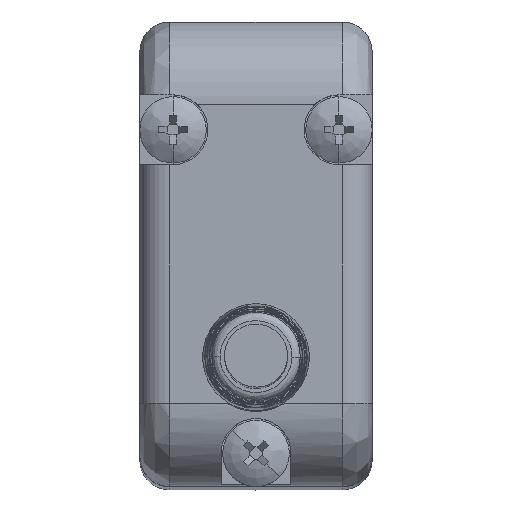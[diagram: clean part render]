
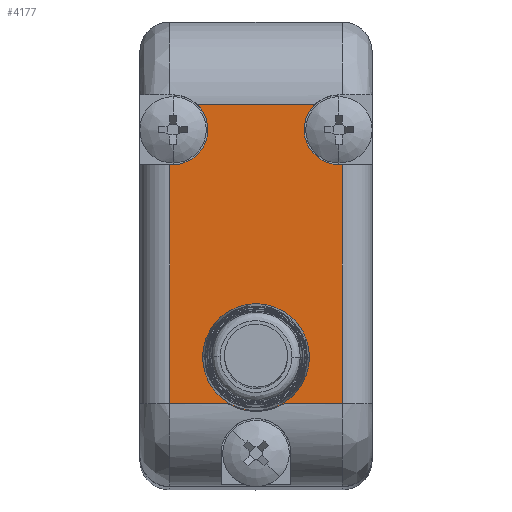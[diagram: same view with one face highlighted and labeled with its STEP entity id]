
A CAD part, top view. The second image highlights one B-rep face of the part: STEP entity #4177.
In plain terms, the highlighted planar face has unit normal (0, 0, 1).
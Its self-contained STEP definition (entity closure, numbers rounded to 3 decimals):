
#94 = CARTESIAN_POINT ( 'NONE',  ( 46.349, 2.34, 58.281 ) ) ;
#101 = VERTEX_POINT ( 'NONE', #11562 ) ;
#151 = EDGE_CURVE ( 'NONE', #8963, #1542, #6530, .T. ) ;
#188 = DIRECTION ( 'NONE',  ( -1., 0., 0. ) ) ;
#258 = EDGE_CURVE ( 'NONE', #1600, #6847, #7221, .T. ) ;
#391 = ORIENTED_EDGE ( 'NONE', *, *, #5170, .T. ) ;
#473 = ORIENTED_EDGE ( 'NONE', *, *, #5905, .F. ) ;
#520 = CARTESIAN_POINT ( 'NONE',  ( 43.13, -0.425, 58.281 ) ) ;
#526 = EDGE_CURVE ( 'NONE', #4246, #6323, #8605, .T. ) ;
#651 = DIRECTION ( 'NONE',  ( 1., 0., 0. ) ) ;
#763 = CARTESIAN_POINT ( 'NONE',  ( 48.33, 8.575, 58.281 ) ) ;
#826 = VECTOR ( 'NONE', #3333, 1000. ) ;
#842 = CARTESIAN_POINT ( 'NONE',  ( 37.93, 8.575, 58.281 ) ) ;
#986 = AXIS2_PLACEMENT_3D ( 'NONE', #6884, #7718, #188 ) ;
#1000 = CARTESIAN_POINT ( 'NONE',  ( 41.431, -0.425, 58.281 ) ) ;
#1234 = ORIENTED_EDGE ( 'NONE', *, *, #2815, .T. ) ;
#1403 = CARTESIAN_POINT ( 'NONE',  ( 38.13, 13.975, 58.281 ) ) ;
#1452 = VECTOR ( 'NONE', #10121, 1000. ) ;
#1490 = CARTESIAN_POINT ( 'NONE',  ( 48.33, -0.425, 58.281 ) ) ;
#1542 = VERTEX_POINT ( 'NONE', #6079 ) ;
#1600 = VERTEX_POINT ( 'NONE', #6854 ) ;
#1624 = CARTESIAN_POINT ( 'NONE',  ( 48.13, 16.075, 58.281 ) ) ;
#1712 = DIRECTION ( 'NONE',  ( 0., -1., 0. ) ) ;
#1717 = VECTOR ( 'NONE', #1712, 1000. ) ;
#1849 = VERTEX_POINT ( 'NONE', #4311 ) ;
#1967 = DIRECTION ( 'NONE',  ( 1., 0., 0. ) ) ;
#2213 = EDGE_LOOP ( 'NONE', ( #8599, #391 ) ) ;
#2387 = PLANE ( 'NONE',  #7437 ) ;
#2391 = CARTESIAN_POINT ( 'NONE',  ( 40.23, 16.075, 58.281 ) ) ;
#2617 = EDGE_CURVE ( 'NONE', #1849, #9174, #4387, .T. ) ;
#2627 = LINE ( 'NONE', #842, #1452 ) ;
#2639 = EDGE_CURVE ( 'NONE', #6847, #3714, #8054, .T. ) ;
#2815 = EDGE_CURVE ( 'NONE', #1600, #101, #8235, .T. ) ;
#2900 = CARTESIAN_POINT ( 'NONE',  ( 48.33, -0.425, 58.281 ) ) ;
#3024 = ORIENTED_EDGE ( 'NONE', *, *, #6461, .F. ) ;
#3052 = VECTOR ( 'NONE', #5660, 1000. ) ;
#3322 = CIRCLE ( 'NONE', #6772, 2.1 ) ;
#3333 = DIRECTION ( 'NONE',  ( 1., 0., 0. ) ) ;
#3479 = VERTEX_POINT ( 'NONE', #7710 ) ;
#3509 = FACE_OUTER_BOUND ( 'NONE', #6346, .T. ) ;
#3566 = CIRCLE ( 'NONE', #6639, 2.1 ) ;
#3714 = VERTEX_POINT ( 'NONE', #11124 ) ;
#3739 = ORIENTED_EDGE ( 'NONE', *, *, #258, .F. ) ;
#3858 = CIRCLE ( 'NONE', #4248, 3.275 ) ;
#4101 = DIRECTION ( 'NONE',  ( -1., 0., 0. ) ) ;
#4177 = ADVANCED_FACE ( 'NONE', ( #3509, #7160 ), #2387, .F. ) ;
#4246 = VERTEX_POINT ( 'NONE', #1000 ) ;
#4248 = AXIS2_PLACEMENT_3D ( 'NONE', #4751, #11296, #6618 ) ;
#4311 = CARTESIAN_POINT ( 'NONE',  ( 39.91, 2.411, 58.281 ) ) ;
#4338 = ORIENTED_EDGE ( 'NONE', *, *, #11230, .F. ) ;
#4387 = CIRCLE ( 'NONE', #11679, 3.219 ) ;
#4391 = CARTESIAN_POINT ( 'NONE',  ( 43.13, 2.375, 58.281 ) ) ;
#4418 = DIRECTION ( 'NONE',  ( 1., 0., 0. ) ) ;
#4447 = CARTESIAN_POINT ( 'NONE',  ( 46.66, 17.575, 58.281 ) ) ;
#4509 = DIRECTION ( 'NONE',  ( -1., 0., 0. ) ) ;
#4751 = CARTESIAN_POINT ( 'NONE',  ( 43.13, 2.375, 58.281 ) ) ;
#5071 = CARTESIAN_POINT ( 'NONE',  ( 43.13, 17.575, 58.281 ) ) ;
#5138 = DIRECTION ( 'NONE',  ( -1., 0., 0. ) ) ;
#5170 = EDGE_CURVE ( 'NONE', #9174, #1849, #6540, .T. ) ;
#5199 = DIRECTION ( 'NONE',  ( 0., 0., -1. ) ) ;
#5240 = LINE ( 'NONE', #6030, #5294 ) ;
#5294 = VECTOR ( 'NONE', #7880, 1000. ) ;
#5660 = DIRECTION ( 'NONE',  ( -1., 0., 0. ) ) ;
#5675 = ORIENTED_EDGE ( 'NONE', *, *, #526, .F. ) ;
#5905 = EDGE_CURVE ( 'NONE', #3714, #4246, #3858, .T. ) ;
#6030 = CARTESIAN_POINT ( 'NONE',  ( 37.13, 13.975, 58.281 ) ) ;
#6079 = CARTESIAN_POINT ( 'NONE',  ( 39.599, 17.575, 58.281 ) ) ;
#6136 = VERTEX_POINT ( 'NONE', #1403 ) ;
#6323 = VERTEX_POINT ( 'NONE', #8821 ) ;
#6346 = EDGE_LOOP ( 'NONE', ( #5675, #473, #7214, #3739, #1234, #10068, #8665, #7618, #4338, #6761, #3024 ) ) ;
#6441 = CARTESIAN_POINT ( 'NONE',  ( 49.13, 13.975, 58.281 ) ) ;
#6461 = EDGE_CURVE ( 'NONE', #6323, #3479, #2627, .T. ) ;
#6530 = CIRCLE ( 'NONE', #10548, 2.1 ) ;
#6540 = CIRCLE ( 'NONE', #986, 3.219 ) ;
#6618 = DIRECTION ( 'NONE',  ( -1., 0., 0. ) ) ;
#6639 = AXIS2_PLACEMENT_3D ( 'NONE', #1624, #7063, #4418 ) ;
#6761 = ORIENTED_EDGE ( 'NONE', *, *, #11785, .T. ) ;
#6772 = AXIS2_PLACEMENT_3D ( 'NONE', #7357, #10115, #1967 ) ;
#6847 = VERTEX_POINT ( 'NONE', #2900 ) ;
#6854 = CARTESIAN_POINT ( 'NONE',  ( 48.33, 13.975, 58.281 ) ) ;
#6884 = CARTESIAN_POINT ( 'NONE',  ( 43.13, 2.375, 58.281 ) ) ;
#7063 = DIRECTION ( 'NONE',  ( 0., 0., 1. ) ) ;
#7160 = FACE_BOUND ( 'NONE', #2213, .T. ) ;
#7214 = ORIENTED_EDGE ( 'NONE', *, *, #2639, .F. ) ;
#7221 = LINE ( 'NONE', #763, #1717 ) ;
#7285 = VECTOR ( 'NONE', #4101, 1000. ) ;
#7357 = CARTESIAN_POINT ( 'NONE',  ( 38.13, 16.075, 58.281 ) ) ;
#7437 = AXIS2_PLACEMENT_3D ( 'NONE', #1490, #5199, #5138 ) ;
#7547 = EDGE_CURVE ( 'NONE', #8001, #101, #3566, .T. ) ;
#7618 = ORIENTED_EDGE ( 'NONE', *, *, #151, .F. ) ;
#7706 = LINE ( 'NONE', #5071, #826 ) ;
#7710 = CARTESIAN_POINT ( 'NONE',  ( 37.93, 13.975, 58.281 ) ) ;
#7718 = DIRECTION ( 'NONE',  ( 0., 0., -1. ) ) ;
#7775 = DIRECTION ( 'NONE',  ( 0., 0., 1. ) ) ;
#7880 = DIRECTION ( 'NONE',  ( -1., 0., 0. ) ) ;
#8001 = VERTEX_POINT ( 'NONE', #4447 ) ;
#8034 = VECTOR ( 'NONE', #11664, 1000. ) ;
#8054 = LINE ( 'NONE', #8170, #8034 ) ;
#8170 = CARTESIAN_POINT ( 'NONE',  ( 43.13, -0.425, 58.281 ) ) ;
#8235 = LINE ( 'NONE', #6441, #3052 ) ;
#8599 = ORIENTED_EDGE ( 'NONE', *, *, #2617, .T. ) ;
#8605 = LINE ( 'NONE', #520, #7285 ) ;
#8665 = ORIENTED_EDGE ( 'NONE', *, *, #10434, .F. ) ;
#8821 = CARTESIAN_POINT ( 'NONE',  ( 37.93, -0.425, 58.281 ) ) ;
#8861 = CARTESIAN_POINT ( 'NONE',  ( 38.13, 16.075, 58.281 ) ) ;
#8963 = VERTEX_POINT ( 'NONE', #2391 ) ;
#9024 = DIRECTION ( 'NONE',  ( 0., 0., -1. ) ) ;
#9174 = VERTEX_POINT ( 'NONE', #94 ) ;
#10068 = ORIENTED_EDGE ( 'NONE', *, *, #7547, .F. ) ;
#10115 = DIRECTION ( 'NONE',  ( 0., 0., 1. ) ) ;
#10121 = DIRECTION ( 'NONE',  ( 0., 1., 0. ) ) ;
#10434 = EDGE_CURVE ( 'NONE', #1542, #8001, #7706, .T. ) ;
#10548 = AXIS2_PLACEMENT_3D ( 'NONE', #8861, #7775, #651 ) ;
#11124 = CARTESIAN_POINT ( 'NONE',  ( 44.828, -0.425, 58.281 ) ) ;
#11230 = EDGE_CURVE ( 'NONE', #6136, #8963, #3322, .T. ) ;
#11296 = DIRECTION ( 'NONE',  ( 0., 0., -1. ) ) ;
#11562 = CARTESIAN_POINT ( 'NONE',  ( 48.13, 13.975, 58.281 ) ) ;
#11664 = DIRECTION ( 'NONE',  ( -1., 0., 0. ) ) ;
#11679 = AXIS2_PLACEMENT_3D ( 'NONE', #4391, #9024, #4509 ) ;
#11785 = EDGE_CURVE ( 'NONE', #6136, #3479, #5240, .T. ) ;
